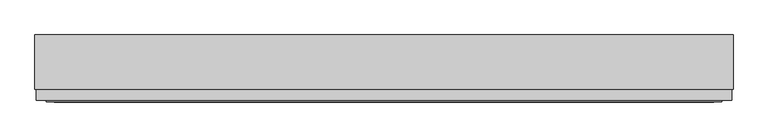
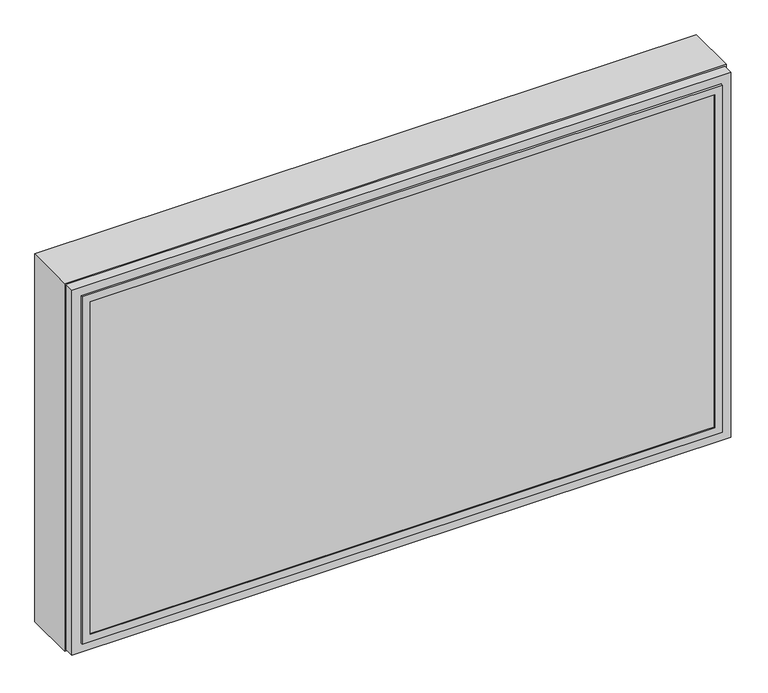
"""IFC4 building model written with IfcOpenShell, lengths in millimetres: plate geometry, SCISSOR PANEL : SCISSOR PANEL."""

import ifcopenshell
import ifcopenshell.guid

model = None  # the IFC model being written
_history = None  # IfcOwnerHistory: only IFC2X3 demands one
_inside = {}  # id of a spatial element -> (the spatial element, [elements in it])
_under = {}  # id of a project, library or spatial element -> (it, [spatial elements below it])
_declared = {}  # id of a project -> (the project, [libraries it declares])
_typed = {}  # id of a type object -> (the type object, [elements of that type])
_made_of = {}  # id of a material, layer set ... -> (it, [elements and type objects made of it])


def new_model(schema):
    """Start an empty IFC model of exactly this schema.

    Asked for "IFC4X3", IfcOpenShell would pick the latest addendum, in which some entities
    have other attributes; the version numbers below select the first issue.
    IFC2X3 requires an IfcOwnerHistory on every rooted entity: one is made here for all.
    """
    global model, _history
    if schema == "IFC4X3":
        model = ifcopenshell.file(schema_version=(4, 3, 0, 0))
    else:
        model = ifcopenshell.file(schema=schema)
    _inside.clear()
    _under.clear()
    _declared.clear()
    _typed.clear()
    _made_of.clear()
    _history = None
    if model.schema == "IFC2X3":
        org = make("IfcOrganization", Name="unknown")
        user = make(
            "IfcPersonAndOrganization",
            ThePerson=make("IfcPerson", FamilyName="unknown"),
            TheOrganization=org,
        )
        app = make(
            "IfcApplication",
            ApplicationDeveloper=org,
            Version="unknown",
            ApplicationFullName="unknown",
            ApplicationIdentifier="unknown",
        )
        _history = make(
            "IfcOwnerHistory",
            OwningUser=user,
            OwningApplication=app,
            ChangeAction="ADDED",
            CreationDate=0,
        )
    return model


def make(cls, **values):
    """One entity of the class cls with the attributes given. An attribute that is None is left unset."""
    return model.create_entity(
        cls, **{name: value for name, value in values.items() if value is not None}
    )


def rooted(cls, **values):
    """An entity with a GlobalId (a new one), such as an element, a storey or a relation."""
    return make(cls, GlobalId=ifcopenshell.guid.new(), OwnerHistory=_history, **values)


def si_unit(unit_type, name, prefix=None):
    """IfcSIUnit, for example si_unit("LENGTHUNIT", "METRE", prefix="MILLI")."""
    return make("IfcSIUnit", UnitType=unit_type, Prefix=prefix, Name=name)


def assignment(units):
    """IfcUnitAssignment: the units of a project."""
    return None if units is None else make("IfcUnitAssignment", Units=units)


def point(xyz):
    """IfcCartesianPoint."""
    return None if xyz is None else make("IfcCartesianPoint", Coordinates=xyz)


def direction(xyz):
    """IfcDirection."""
    return None if xyz is None else make("IfcDirection", DirectionRatios=xyz)


def frame(location, z_axis=None, x_axis=None):
    """IfcAxis2Placement3D, a coordinate frame: its origin and axes. An axis left out is left unset."""
    return make(
        "IfcAxis2Placement3D",
        Location=point(location),
        Axis=direction(z_axis),
        RefDirection=direction(x_axis),
    )


def origin():
    """The frame at (0, 0, 0) with its axes left unset."""
    return frame((0.0, 0.0, 0.0))


def place(relative_to, where):
    """IfcLocalPlacement: puts the frame where relative to a parent placement (None: the world)."""
    return make(
        "IfcLocalPlacement", PlacementRelTo=relative_to, RelativePlacement=where
    )


def context(
    kind, dimensions, precision=None, world=None, true_north=None, identifier=None
):
    """IfcGeometricRepresentationContext, for example the 3D "Model" context."""
    return make(
        "IfcGeometricRepresentationContext",
        ContextIdentifier=identifier,
        ContextType=kind,
        CoordinateSpaceDimension=dimensions,
        Precision=precision,
        WorldCoordinateSystem=world,
        TrueNorth=true_north,
    )


def project(units=None, contexts=None):
    """IfcProject with its units and contexts."""
    return rooted(
        "IfcProject",
        Name="project",
        RepresentationContexts=contexts,
        UnitsInContext=assignment(units),
    )


def spatial(cls, under=None, at=None, **own):
    """A site, building, storey or space (cls), placed at a placement, below another one or the project."""
    s = rooted(cls, ObjectPlacement=at, **own)
    if under is not None:
        _under.setdefault(under.id(), (under, []))[1].append(s)
    return s


def polyline(points):
    """IfcPolyline through the points."""
    return make("IfcPolyline", Points=[point(p) for p in points])


def outline(outer, holes=None, kind="AREA"):
    """IfcArbitraryClosedProfileDef: a profile drawn as a closed curve; with holes, ...WithVoids."""
    if holes is None:
        return make("IfcArbitraryClosedProfileDef", ProfileType=kind, OuterCurve=outer)
    return make(
        "IfcArbitraryProfileDefWithVoids",
        ProfileType=kind,
        OuterCurve=outer,
        InnerCurves=holes,
    )


def extrude(swept, where, along, depth):
    """IfcExtrudedAreaSolid: the profile swept, set in the frame where, extruded along a direction by depth."""
    return make(
        "IfcExtrudedAreaSolid",
        SweptArea=swept,
        Position=where,
        ExtrudedDirection=direction(along),
        Depth=depth,
    )


def faces_of(points, faces, orient=None, outer=None):
    """IfcFace entities. A face is a list of loops; a loop is a list of indices into points, from 0.

    orient and outer hold one flag for each loop. By default every Orientation is true, the
    first loop of a face is its IfcFaceOuterBound and the others are IfcFaceBound.
    """
    made = []
    for i, loops in enumerate(faces):
        bounds = []
        for j, loop in enumerate(loops):
            is_outer = j == 0 if outer is None else outer[i][j]
            bounds.append(
                make(
                    "IfcFaceOuterBound" if is_outer else "IfcFaceBound",
                    Bound=make("IfcPolyLoop", Polygon=[points[k] for k in loop]),
                    Orientation=True if orient is None else orient[i][j],
                )
            )
        made.append(make("IfcFace", Bounds=bounds))
    return made


def faceted_brep(points, faces, orient=None, outer=None, voids=None):
    """IfcFacetedBrep: a solid bounded by flat faces; with voids (closed shells), ...WithVoids."""
    shared = [point(p) for p in points]
    hull = make("IfcClosedShell", CfsFaces=faces_of(shared, faces, orient, outer))
    if voids is None:
        return make("IfcFacetedBrep", Outer=hull)
    return make(
        "IfcFacetedBrepWithVoids",
        Outer=hull,
        Voids=[
            make(cls, CfsFaces=faces_of(shared, fs, o, b)) for cls, fs, o, b in voids
        ],
    )


def shape(context_of_items, identifier, shape_type, items):
    """IfcShapeRepresentation: the items that make up one representation, for example the "Body"."""
    return make(
        "IfcShapeRepresentation",
        ContextOfItems=context_of_items,
        RepresentationIdentifier=identifier,
        RepresentationType=shape_type,
        Items=items,
    )


def source(mapping_origin, context_of_items, identifier, shape_type, items):
    """IfcRepresentationMap: a shape defined once, which mapped items show again and again."""
    return make(
        "IfcRepresentationMap",
        MappingOrigin=mapping_origin,
        MappedRepresentation=shape(context_of_items, identifier, shape_type, items),
    )


def transform(
    local_origin,
    x_axis=None,
    y_axis=None,
    z_axis=None,
    scale=None,
    scale2=None,
    scale3=None,
    uniform=True,
):
    """IfcCartesianTransformationOperator3D, or its non-uniform kind. x_axis, y_axis, z_axis: its Axis1, 2, 3."""
    if uniform:
        return make(
            "IfcCartesianTransformationOperator3D",
            Axis1=direction(x_axis),
            Axis2=direction(y_axis),
            LocalOrigin=point(local_origin),
            Scale=scale,
            Axis3=direction(z_axis),
        )
    return make(
        "IfcCartesianTransformationOperator3DnonUniform",
        Axis1=direction(x_axis),
        Axis2=direction(y_axis),
        LocalOrigin=point(local_origin),
        Scale=scale,
        Axis3=direction(z_axis),
        Scale2=scale2,
        Scale3=scale3,
    )


def mapped(mapping_source, mapping_target):
    """IfcMappedItem: shows the shape of a source again, moved by a transform."""
    return make(
        "IfcMappedItem", MappingSource=mapping_source, MappingTarget=mapping_target
    )


def made_of(thing, what):
    """Note that an element or type object is made of a material, layer set ...; save() writes the relation."""
    if what is not None:
        _made_of.setdefault(what.id(), (what, []))[1].append(thing)
    return thing


def element(
    cls,
    number,
    at=None,
    inside=None,
    cuts=None,
    type_object=None,
    material=None,
    context=None,
    identifier="Body",
    shape_type=None,
    held_by="IfcProductDefinitionShape",
    body=None,
    shapes=None,
    **own,
):
    """One element of the class cls, such as IfcWall. Its Tag is "e" and its number.

    at: its placement. inside: the storey or other place that contains it. cuts: it is an
    opening in that element (IfcRelVoidsElement). A single representation is given by context,
    identifier, shape_type and body (its items); several are given by shapes. held_by: the class
    of the entity that holds the representations. save() writes the other relations.
    """
    e = rooted(cls, Tag="e%d" % number, ObjectPlacement=at, **own)
    if body is not None:
        shapes = [shape(context, identifier, shape_type, body)]
    if shapes is not None:
        e.Representation = make(held_by, Representations=shapes)
    if inside is not None:
        _inside.setdefault(inside.id(), (inside, []))[1].append(e)
    if cuts is not None:
        rooted(
            "IfcRelVoidsElement", RelatingBuildingElement=cuts, RelatedOpeningElement=e
        )
    if type_object is not None:
        _typed.setdefault(type_object.id(), (type_object, []))[1].append(e)
    return made_of(e, material)


def aggregate(whole, parts):
    """IfcRelAggregates: a whole, such as a stair, and the parts it consists of."""
    return rooted("IfcRelAggregates", RelatingObject=whole, RelatedObjects=parts)


def save(model, path):
    """Write the relations noted so far, then the file.

    IfcRelAggregates (storeys below a building ...), IfcRelContainedInSpatialStructure (elements
    in a storey), IfcRelDefinesByType, IfcRelAssociatesMaterial and IfcRelDeclares: one each for
    every whole, place, type object, material and project.
    """
    for whole, parts in _under.values():
        aggregate(whole, parts)
    for where, things in _inside.values():
        rooted(
            "IfcRelContainedInSpatialStructure",
            RelatedElements=things,
            RelatingStructure=where,
        )
    for kind, things in _typed.values():
        rooted("IfcRelDefinesByType", RelatedObjects=things, RelatingType=kind)
    for what, things in _made_of.values():
        rooted("IfcRelAssociatesMaterial", RelatedObjects=things, RelatingMaterial=what)
    for by, libraries in _declared.values():
        rooted("IfcRelDeclares", RelatingContext=by, RelatedDefinitions=libraries)
    model.write(path)


def plate_dae2750f(model_context):
    return source(origin(), model_context, "Body", "SolidModel", [
        extrude(outline(polyline([(1000.0, -851.0951718), (0.0, -851.0951718), (0.0, 851.0951718), (1000.0, 851.0951718), (1000.0, -851.0951718)]), holes=[polyline([(17.5, -833.5951718), (982.5, -833.5951718), (982.5, 833.5951718), (17.5, 833.5951718), (17.5, -833.5951718)])]), frame((0.0, -132.5, 0.0), z_axis=(0.0, 1.0, 0.0), x_axis=(0.0, 0.0, 1.0)), (0.0, 0.0, 1.0), 132.5),
        extrude(outline(polyline([(-820.5951718, -160.5), (-820.5951718, -135.5), (820.5951718, -135.5), (820.5951718, -160.5), (-820.5951718, -160.5)])), frame((0.0, 0.0, 30.5), z_axis=(0.0, 0.0, 1.0), x_axis=(1.0, 0.0, 0.0)), (0.0, 0.0, 1.0), 939.0),
        faceted_brep([(-803.5951718, -135.5, 952.5), (-803.5951718, -135.5, 47.5), (-803.5951718, -132.5, 47.5), (-803.5951718, -132.5, 952.5), (-820.5951718, -160.5, 969.5), (-820.5951718, -160.5, 30.5), (-820.5951718, -135.5, 30.5), (-820.5951718, -135.5, 969.5), (-803.5951718, -163.5, 952.5), (-803.5951718, -163.5, 47.5), (-803.5951718, -160.5, 47.5), (-803.5951718, -160.5, 952.5), (-823.5951718, -132.5, 972.5), (-823.5951718, -132.5, 27.5), (-823.5951718, -163.5, 27.5), (-823.5951718, -163.5, 972.5), (803.5951718, -135.5, 47.5), (803.5951718, -132.5, 47.5), (820.5951718, -160.5, 30.5), (820.5951718, -135.5, 30.5), (803.5951718, -163.5, 47.5), (803.5951718, -160.5, 47.5), (823.5951718, -132.5, 27.5), (823.5951718, -163.5, 27.5), (803.5951718, -135.5, 952.5), (803.5951718, -132.5, 952.5), (820.5951718, -160.5, 969.5), (820.5951718, -135.5, 969.5), (803.5951718, -163.5, 952.5), (803.5951718, -160.5, 952.5), (823.5951718, -132.5, 972.5), (823.5951718, -163.5, 972.5)], [[[0, 1, 2, 3]], [[4, 5, 6, 7]], [[8, 9, 10, 11]], [[12, 13, 14, 15]], [[1, 16, 17, 2]], [[5, 18, 19, 6]], [[9, 20, 21, 10]], [[13, 22, 23, 14]], [[16, 24, 25, 17]], [[18, 26, 27, 19]], [[20, 28, 29, 21]], [[22, 30, 31, 23]], [[13, 12, 30, 22], [3, 2, 17, 25]], [[24, 0, 3, 25]], [[7, 6, 19, 27], [1, 0, 24, 16]], [[26, 4, 7, 27]], [[5, 4, 26, 18], [11, 10, 21, 29]], [[28, 8, 11, 29]], [[15, 14, 23, 31], [9, 8, 28, 20]], [[30, 12, 15, 31]]]),
        faceted_brep([(-847.5951718, -132.5, 996.5), (-847.5951718, -132.5, 3.5), (-847.5951718, -158.75, 3.5), (-847.5951718, -158.75, 996.5), (-840.5951718, -150.0, 989.5), (-840.5951718, -150.0, 10.5), (-840.5951718, -132.5, 10.5), (-840.5951718, -132.5, 989.5), (-833.5951718, -123.75, 982.5), (-833.5951718, -123.75, 17.5), (-833.5951718, -150.0, 17.5), (-833.5951718, -150.0, 982.5), (-823.5951718, -158.75, 972.5), (-823.5951718, -158.75, 27.5), (-823.5951718, -123.75, 27.5), (-823.5951718, -123.75, 972.5), (847.5951718, -132.5, 3.5), (847.5951718, -158.75, 3.5), (840.5951718, -150.0, 10.5), (840.5951718, -132.5, 10.5), (833.5951718, -123.75, 17.5), (833.5951718, -150.0, 17.5), (823.5951718, -158.75, 27.5), (823.5951718, -123.75, 27.5), (847.5951718, -132.5, 996.5), (847.5951718, -158.75, 996.5), (840.5951718, -150.0, 989.5), (840.5951718, -132.5, 989.5), (833.5951718, -123.75, 982.5), (833.5951718, -150.0, 982.5), (823.5951718, -158.75, 972.5), (823.5951718, -123.75, 972.5)], [[[0, 1, 2, 3]], [[4, 5, 6, 7]], [[8, 9, 10, 11]], [[12, 13, 14, 15]], [[1, 16, 17, 2]], [[5, 18, 19, 6]], [[9, 20, 21, 10]], [[13, 22, 23, 14]], [[16, 24, 25, 17]], [[18, 26, 27, 19]], [[20, 28, 29, 21]], [[22, 30, 31, 23]], [[24, 0, 3, 25]], [[1, 0, 24, 16], [7, 6, 19, 27]], [[26, 4, 7, 27]], [[5, 4, 26, 18], [11, 10, 21, 29]], [[28, 8, 11, 29]], [[9, 8, 28, 20], [15, 14, 23, 31]], [[30, 12, 15, 31]], [[3, 2, 17, 25], [13, 12, 30, 22]]]),
        extrude(outline(polyline([(989.5, -840.5951718), (10.5, -840.5951718), (10.5, 840.5951718), (989.5, 840.5951718), (989.5, -840.5951718)]), holes=[polyline([(982.5, -833.5951718), (982.5, 833.5951718), (17.5, 833.5951718), (17.5, -833.5951718), (982.5, -833.5951718)])]), frame((0.0, -150.0, 0.0), z_axis=(0.0, 1.0, 0.0), x_axis=(0.0, 0.0, 1.0)), (0.0, 0.0, 1.0), 17.5),
    ])


if __name__ == "__main__":
    model = new_model("IFC4")
    model_context = context("Model", 3, world=origin())
    ifc_project = project(units=[si_unit("LENGTHUNIT", "METRE", prefix="MILLI")], contexts=[model_context])
    site = spatial("IfcSite", under=ifc_project)
    building = spatial("IfcBuilding", under=site)
    placement = place(None, origin())
    plate_shape = plate_dae2750f(model_context)
    element("IfcPlate", 1, ObjectType="SCISSOR PANEL : SCISSOR PANEL", at=placement, inside=building, context=model_context, shape_type="MappedRepresentation", body=[
        mapped(plate_shape, transform((0.0, 0.0, 0.0), x_axis=(1.0, 0.0, 0.0), y_axis=(0.0, 1.0, 0.0), z_axis=(0.0, 0.0, 1.0))),
    ])
    save(model, "model.ifc")
